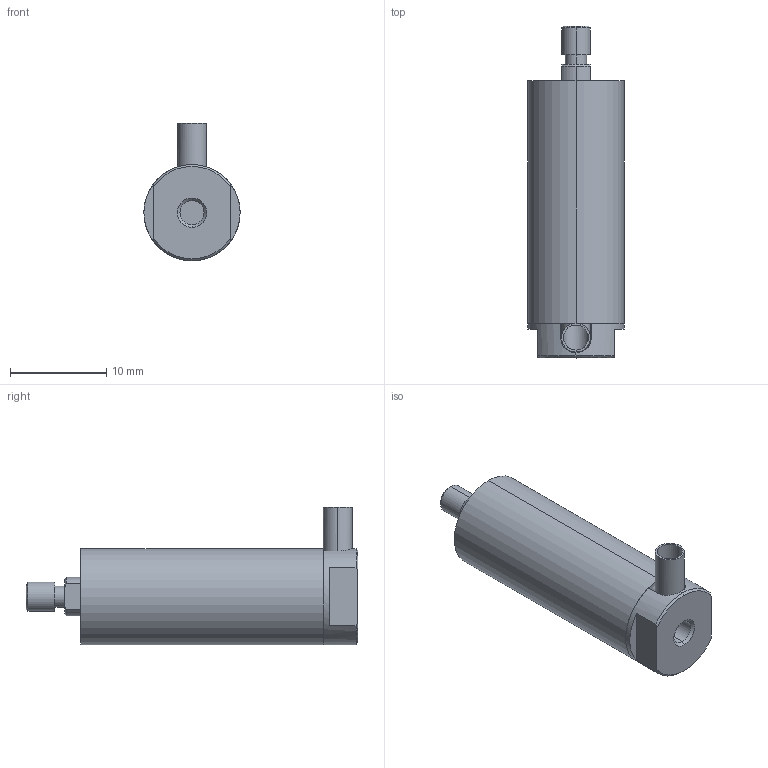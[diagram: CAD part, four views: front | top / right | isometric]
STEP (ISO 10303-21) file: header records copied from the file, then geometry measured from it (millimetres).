
FILE_DESCRIPTION (( 'STEP AP203' ), '1' );
FILE_NAME ('20VS10装配图（外螺纹式）.STEP', '2024-10-25T03:17:09', ( 'daohangxitong.com' ), ( 'daohangxitong.com' ), 'SwSTEP 2.0', 'SolidWorks 2016', '' );
FILE_SCHEMA (( 'CONFIG_CONTROL_DESIGN' ));
Length unit declared in the file: millimetre
Products named in the file (1): 20VS10装配图（外螺纹式）
Bounding box: 10 x 34.5 x 14.3 mm (x, y, z)
Volume: 2254.7 mm3; surface area: 1745.2 mm2
Topology: 5 solids, 5 shells, 78 faces, 172 edges, 105 vertices
Faces by surface type: cylinder 32, plane 24, cone 22
Entity records: 2237 total; most frequent: CARTESIAN_POINT 416, DIRECTION 392, ORIENTED_EDGE 336, EDGE_CURVE 168, AXIS2_PLACEMENT_3D 159, VERTEX_POINT 105, EDGE_LOOP 89, CIRCLE 80
